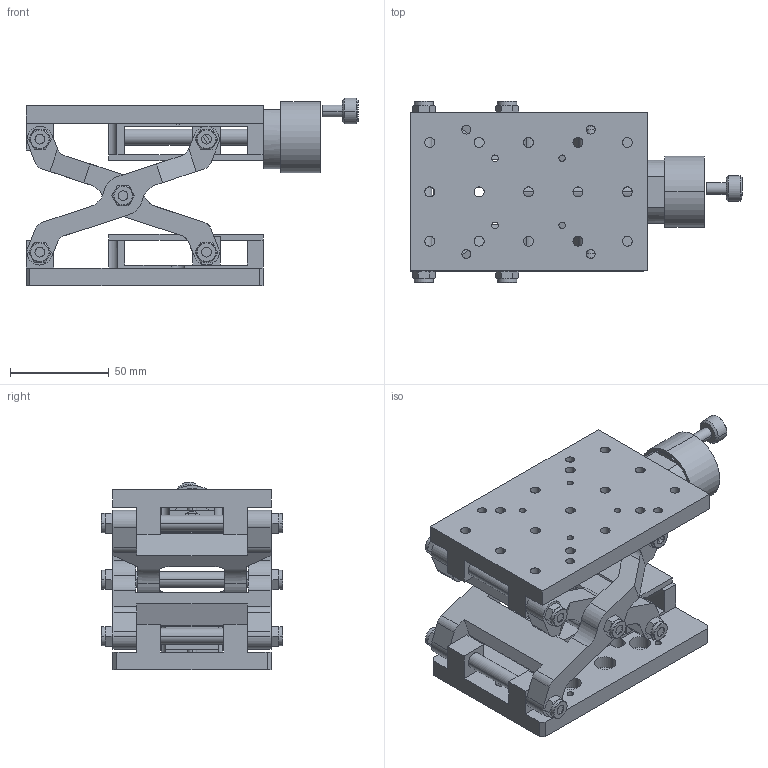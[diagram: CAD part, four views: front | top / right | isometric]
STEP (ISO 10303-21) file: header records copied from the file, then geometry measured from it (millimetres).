
FILE_DESCRIPTION (( 'STEP AP214' ), '1' );
FILE_NAME ('PT-SD408.STEP', '2022-09-11T09:55:56', ( '' ), ( '' ), 'SwSTEP 2.0', 'SolidWorks 2017', '' );
FILE_SCHEMA (( 'AUTOMOTIVE_DESIGN' ));
Length unit declared in the file: millimetre
Products named in the file (3): PT-SD408盓殤; PT-SD408; PT-SD408菁釱
Assembly tree (2 placements, depth 2):
  PT-SD408
    PT-SD408菁釱
    PT-SD408盓殤
Bounding box: 168.06 x 92 x 94.94 mm (x, y, z)
Volume: 6084 mm3; surface area: 118620.5 mm2
Topology: 1 solids, 36 shells, 563 faces, 1640 edges, 1119 vertices
Faces by surface type: plane 242, cylinder 232, cone 89
Entity records: 25918 total; most frequent: CARTESIAN_POINT 10995, DIRECTION 3032, ORIENTED_EDGE 2920, EDGE_CURVE 1640, AXIS2_PLACEMENT_3D 1143, VERTEX_POINT 1119, LINE 746, VECTOR 746
